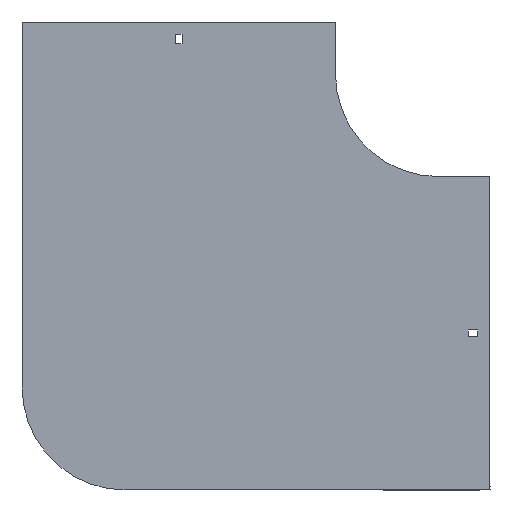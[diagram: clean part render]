
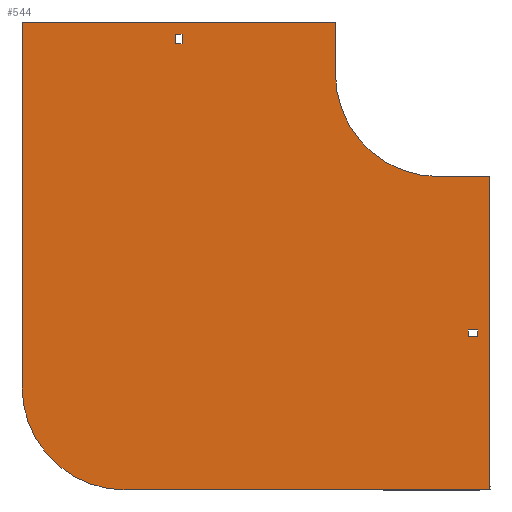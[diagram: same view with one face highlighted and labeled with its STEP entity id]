
A CAD part, front view. The second image highlights one B-rep face of the part: STEP entity #544.
In plain terms, the highlighted planar face has unit normal (0, -1, 0).
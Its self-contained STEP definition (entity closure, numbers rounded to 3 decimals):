
#10 = CARTESIAN_POINT ( 'NONE',  ( -248.75, 0., 29. ) ) ;
#14 = VECTOR ( 'NONE', #1716, 1000. ) ;
#20 = VECTOR ( 'NONE', #1573, 1000. ) ;
#22 = ORIENTED_EDGE ( 'NONE', *, *, #1261, .F. ) ;
#26 = ORIENTED_EDGE ( 'NONE', *, *, #400, .F. ) ;
#36 = ORIENTED_EDGE ( 'NONE', *, *, #1771, .F. ) ;
#52 = CARTESIAN_POINT ( 'NONE',  ( 50., 0., -404. ) ) ;
#55 = VECTOR ( 'NONE', #1413, 1000. ) ;
#60 = LINE ( 'NONE', #516, #964 ) ;
#71 = CARTESIAN_POINT ( 'NONE',  ( -100., 0., 50. ) ) ;
#130 = VECTOR ( 'NONE', #1157, 1000. ) ;
#137 = DIRECTION ( 'NONE',  ( 0., 1., 0. ) ) ;
#160 = ORIENTED_EDGE ( 'NONE', *, *, #1829, .F. ) ;
#176 = ORIENTED_EDGE ( 'NONE', *, *, #1144, .F. ) ;
#231 = LINE ( 'NONE', #1272, #1672 ) ;
#240 = FACE_BOUND ( 'NONE', #1001, .T. ) ;
#248 = FACE_BOUND ( 'NONE', #1127, .T. ) ;
#261 = LINE ( 'NONE', #708, #1575 ) ;
#280 = VECTOR ( 'NONE', #425, 1000. ) ;
#297 = VERTEX_POINT ( 'NONE', #1287 ) ;
#351 = CARTESIAN_POINT ( 'NONE',  ( -255.25, 0., 38. ) ) ;
#357 = LINE ( 'NONE', #1233, #55 ) ;
#369 = CARTESIAN_POINT ( 'NONE',  ( -255.25, 0., 29. ) ) ;
#385 = DIRECTION ( 'NONE',  ( 1., 0., 0. ) ) ;
#400 = EDGE_CURVE ( 'NONE', #1947, #1589, #815, .T. ) ;
#403 = DIRECTION ( 'NONE',  ( 0., 0., -1. ) ) ;
#415 = CARTESIAN_POINT ( 'NONE',  ( -304., 0., -304. ) ) ;
#425 = DIRECTION ( 'NONE',  ( 1., 0., 0. ) ) ;
#432 = ORIENTED_EDGE ( 'NONE', *, *, #1037, .T. ) ;
#484 = CARTESIAN_POINT ( 'NONE',  ( -100., 0., 50. ) ) ;
#516 = CARTESIAN_POINT ( 'NONE',  ( -404., 0., -304. ) ) ;
#519 = DIRECTION ( 'NONE',  ( -1., 0., 0. ) ) ;
#525 = EDGE_CURVE ( 'NONE', #657, #651, #952, .T. ) ;
#544 = ADVANCED_FACE ( 'NONE', ( #240, #1730, #248 ), #852, .T. ) ;
#569 = ORIENTED_EDGE ( 'NONE', *, *, #1665, .F. ) ;
#605 = EDGE_CURVE ( 'NONE', #1606, #1947, #261, .T. ) ;
#611 = DIRECTION ( 'NONE',  ( 1., 0., 0. ) ) ;
#636 = DIRECTION ( 'NONE',  ( 0., 0., 1. ) ) ;
#651 = VERTEX_POINT ( 'NONE', #1026 ) ;
#657 = VERTEX_POINT ( 'NONE', #1497 ) ;
#699 = VERTEX_POINT ( 'NONE', #1407 ) ;
#705 = LINE ( 'NONE', #1323, #280 ) ;
#708 = CARTESIAN_POINT ( 'NONE',  ( 50., 0., -404. ) ) ;
#722 = CARTESIAN_POINT ( 'NONE',  ( 29., 0., -248.75 ) ) ;
#757 = LINE ( 'NONE', #10, #1134 ) ;
#764 = ORIENTED_EDGE ( 'NONE', *, *, #605, .F. ) ;
#775 = VERTEX_POINT ( 'NONE', #351 ) ;
#811 = CARTESIAN_POINT ( 'NONE',  ( -404., 0., -304. ) ) ;
#815 = CIRCLE ( 'NONE', #1262, 100. ) ;
#818 = DIRECTION ( 'NONE',  ( 0., -1., 0. ) ) ;
#842 = ORIENTED_EDGE ( 'NONE', *, *, #525, .F. ) ;
#852 = PLANE ( 'NONE',  #1941 ) ;
#879 = LINE ( 'NONE', #1483, #130 ) ;
#888 = VERTEX_POINT ( 'NONE', #1788 ) ;
#894 = ORIENTED_EDGE ( 'NONE', *, *, #1045, .T. ) ;
#952 = LINE ( 'NONE', #1147, #1381 ) ;
#964 = VECTOR ( 'NONE', #636, 1000. ) ;
#966 = VERTEX_POINT ( 'NONE', #1212 ) ;
#972 = CARTESIAN_POINT ( 'NONE',  ( -404., 0., 50. ) ) ;
#977 = VERTEX_POINT ( 'NONE', #1669 ) ;
#1001 = EDGE_LOOP ( 'NONE', ( #1871, #432, #1554, #894 ) ) ;
#1026 = CARTESIAN_POINT ( 'NONE',  ( 38., 0., -255.25 ) ) ;
#1037 = EDGE_CURVE ( 'NONE', #775, #888, #231, .T. ) ;
#1043 = ORIENTED_EDGE ( 'NONE', *, *, #1265, .F. ) ;
#1045 = EDGE_CURVE ( 'NONE', #1825, #699, #1694, .T. ) ;
#1084 = DIRECTION ( 'NONE',  ( -1., 0., 0. ) ) ;
#1127 = EDGE_LOOP ( 'NONE', ( #176, #842, #22, #160 ) ) ;
#1134 = VECTOR ( 'NONE', #1340, 1000. ) ;
#1137 = DIRECTION ( 'NONE',  ( 0., -1., 0. ) ) ;
#1144 = EDGE_CURVE ( 'NONE', #651, #966, #879, .T. ) ;
#1146 = CARTESIAN_POINT ( 'NONE',  ( 50., 0., -100. ) ) ;
#1147 = CARTESIAN_POINT ( 'NONE',  ( 29., 0., -255.25 ) ) ;
#1157 = DIRECTION ( 'NONE',  ( 0., 0., 1. ) ) ;
#1168 = DIRECTION ( 'NONE',  ( 0., 0., 1. ) ) ;
#1212 = CARTESIAN_POINT ( 'NONE',  ( 38., 0., -248.75 ) ) ;
#1233 = CARTESIAN_POINT ( 'NONE',  ( 29., 0., -255.25 ) ) ;
#1245 = CARTESIAN_POINT ( 'NONE',  ( 0., 0., -100. ) ) ;
#1261 = EDGE_CURVE ( 'NONE', #1701, #657, #357, .T. ) ;
#1262 = AXIS2_PLACEMENT_3D ( 'NONE', #415, #137, #1168 ) ;
#1265 = EDGE_CURVE ( 'NONE', #1589, #1793, #60, .T. ) ;
#1272 = CARTESIAN_POINT ( 'NONE',  ( -255.25, 0., 38. ) ) ;
#1282 = LINE ( 'NONE', #71, #14 ) ;
#1283 = EDGE_CURVE ( 'NONE', #1334, #977, #1282, .T. ) ;
#1284 = DIRECTION ( 'NONE',  ( 1., 0., 0. ) ) ;
#1287 = CARTESIAN_POINT ( 'NONE',  ( 0., 0., -100. ) ) ;
#1323 = CARTESIAN_POINT ( 'NONE',  ( -404., 0., 50. ) ) ;
#1334 = VERTEX_POINT ( 'NONE', #484 ) ;
#1340 = DIRECTION ( 'NONE',  ( 0., 0., -1. ) ) ;
#1343 = CIRCLE ( 'NONE', #1399, 100. ) ;
#1344 = EDGE_CURVE ( 'NONE', #297, #1676, #1944, .T. ) ;
#1348 = ORIENTED_EDGE ( 'NONE', *, *, #1344, .F. ) ;
#1373 = ORIENTED_EDGE ( 'NONE', *, *, #1283, .F. ) ;
#1378 = LINE ( 'NONE', #1533, #1895 ) ;
#1381 = VECTOR ( 'NONE', #1284, 1000. ) ;
#1399 = AXIS2_PLACEMENT_3D ( 'NONE', #1569, #818, #1749 ) ;
#1407 = CARTESIAN_POINT ( 'NONE',  ( -255.25, 0., 29. ) ) ;
#1413 = DIRECTION ( 'NONE',  ( 0., 0., -1. ) ) ;
#1431 = EDGE_CURVE ( 'NONE', #1676, #1606, #1458, .T. ) ;
#1446 = VECTOR ( 'NONE', #1750, 1000. ) ;
#1458 = LINE ( 'NONE', #1146, #1446 ) ;
#1483 = CARTESIAN_POINT ( 'NONE',  ( 38., 0., -255.25 ) ) ;
#1497 = CARTESIAN_POINT ( 'NONE',  ( 29., 0., -255.25 ) ) ;
#1515 = EDGE_LOOP ( 'NONE', ( #569, #1043, #26, #764, #1518, #1348, #36, #1373 ) ) ;
#1518 = ORIENTED_EDGE ( 'NONE', *, *, #1431, .F. ) ;
#1522 = CARTESIAN_POINT ( 'NONE',  ( -304., 0., -404. ) ) ;
#1533 = CARTESIAN_POINT ( 'NONE',  ( 29., 0., -248.75 ) ) ;
#1554 = ORIENTED_EDGE ( 'NONE', *, *, #1951, .T. ) ;
#1569 = CARTESIAN_POINT ( 'NONE',  ( 0., 0., 0. ) ) ;
#1573 = DIRECTION ( 'NONE',  ( 0., 0., 1. ) ) ;
#1575 = VECTOR ( 'NONE', #1921, 1000. ) ;
#1586 = CARTESIAN_POINT ( 'NONE',  ( 0., 0., 0. ) ) ;
#1589 = VERTEX_POINT ( 'NONE', #811 ) ;
#1606 = VERTEX_POINT ( 'NONE', #52 ) ;
#1626 = CARTESIAN_POINT ( 'NONE',  ( 50., 0., -100. ) ) ;
#1652 = EDGE_CURVE ( 'NONE', #699, #775, #1719, .T. ) ;
#1665 = EDGE_CURVE ( 'NONE', #1793, #1334, #705, .T. ) ;
#1669 = CARTESIAN_POINT ( 'NONE',  ( -100., 0., 0. ) ) ;
#1672 = VECTOR ( 'NONE', #385, 1000. ) ;
#1676 = VERTEX_POINT ( 'NONE', #1626 ) ;
#1694 = LINE ( 'NONE', #1860, #1853 ) ;
#1701 = VERTEX_POINT ( 'NONE', #722 ) ;
#1716 = DIRECTION ( 'NONE',  ( 0., 0., -1. ) ) ;
#1719 = LINE ( 'NONE', #369, #20 ) ;
#1730 = FACE_OUTER_BOUND ( 'NONE', #1515, .T. ) ;
#1749 = DIRECTION ( 'NONE',  ( 0., 0., -1. ) ) ;
#1750 = DIRECTION ( 'NONE',  ( 0., 0., -1. ) ) ;
#1771 = EDGE_CURVE ( 'NONE', #977, #297, #1343, .T. ) ;
#1788 = CARTESIAN_POINT ( 'NONE',  ( -248.75, 0., 38. ) ) ;
#1793 = VERTEX_POINT ( 'NONE', #972 ) ;
#1825 = VERTEX_POINT ( 'NONE', #1828 ) ;
#1828 = CARTESIAN_POINT ( 'NONE',  ( -248.75, 0., 29. ) ) ;
#1829 = EDGE_CURVE ( 'NONE', #966, #1701, #1378, .T. ) ;
#1853 = VECTOR ( 'NONE', #519, 1000. ) ;
#1860 = CARTESIAN_POINT ( 'NONE',  ( -255.25, 0., 29. ) ) ;
#1871 = ORIENTED_EDGE ( 'NONE', *, *, #1652, .T. ) ;
#1877 = VECTOR ( 'NONE', #611, 1000. ) ;
#1895 = VECTOR ( 'NONE', #1084, 1000. ) ;
#1921 = DIRECTION ( 'NONE',  ( -1., 0., 0. ) ) ;
#1941 = AXIS2_PLACEMENT_3D ( 'NONE', #1586, #1137, #403 ) ;
#1944 = LINE ( 'NONE', #1245, #1877 ) ;
#1947 = VERTEX_POINT ( 'NONE', #1522 ) ;
#1951 = EDGE_CURVE ( 'NONE', #888, #1825, #757, .T. ) ;
